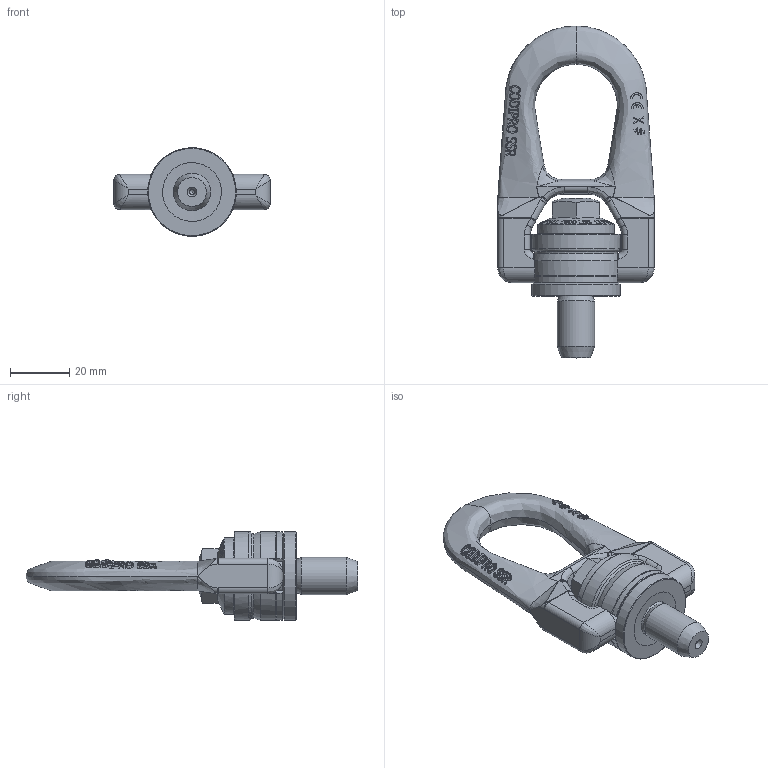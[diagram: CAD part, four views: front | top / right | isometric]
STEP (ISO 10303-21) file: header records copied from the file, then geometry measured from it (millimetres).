
FILE_DESCRIPTION(/* description */ (''),/* implementation_level */ '2;1');
FILE_NAME(/* name */ 'W:\CODIPRO\DOCUMENTS\Plans A NE PAS DIFFUSER !!!\Fichiers STEP\Gamme 2018\Produits NON GRADUP\SS DSR\SS DSR U050.stp',/* time_stamp */ '2017-09-26T13:19:39+02:00',/* author */ ('rklenes'),/* organization */ (''),/* preprocessor_version */ 'ST-DEVELOPER v16.5',/* originating_system */ 'Autodesk Inventor 2017',/* authorisation */ '');
FILE_SCHEMA (('AUTOMOTIVE_DESIGN { 1 0 10303 214 3 1 1 }'));
Products named in the file (5): SS DSR U050; SSM_AF1B-1; SSB_B1B; DRA_U1-2X42; DRE_D1U1-2A
Assembly tree (4 placements, depth 2):
  SS DSR U050
    SSM_AF1B-1
    SSB_B1B
    DRA_U1-2X42
    DRE_D1U1-2A
Bounding box: 53 x 112.5 x 30 mm (x, y, z)
Volume: 40529.8 mm3; surface area: 18425.8 mm2
Topology: 4 solids, 4 shells, 833 faces, 2208 edges, 1425 vertices
Faces by surface type: plane 357, bspline 317, cylinder 82, cone 58, torus 18, sphere 1
Full cylindrical faces by diameter (mm): 1.6 x1, 10 x2, 12.6 x1, 12.7 x2, 12.8 x1, 14.6 x1, 15 x2, 22 x1, 26 x1, 30 x2
Entity records: 45408 total; most frequent: CARTESIAN_POINT 27325, ORIENTED_EDGE 4308, DIRECTION 2735, EDGE_CURVE 2154, VERTEX_POINT 1414, AXIS2_PLACEMENT_3D 940, EDGE_LOOP 924, LINE 855
